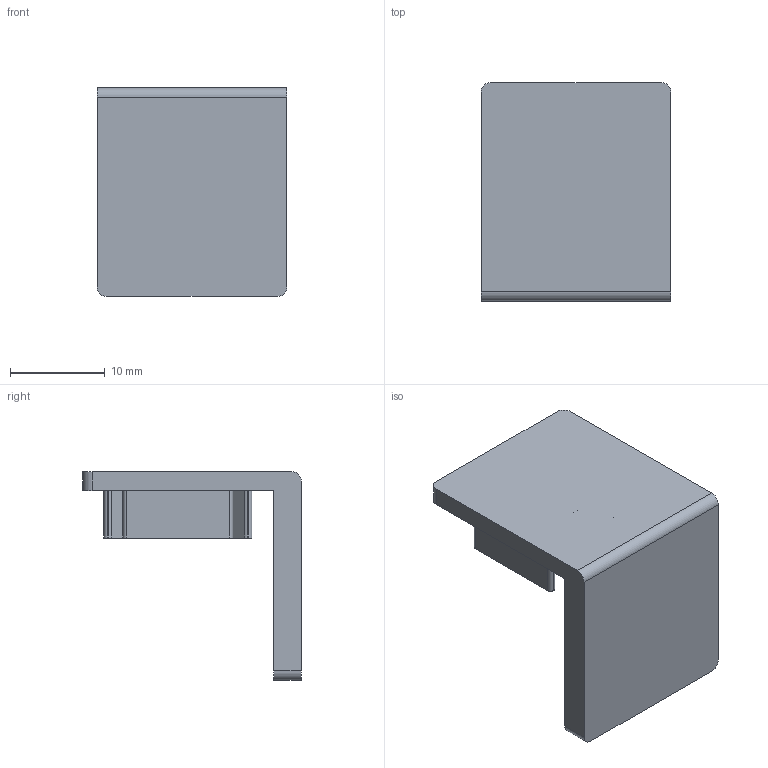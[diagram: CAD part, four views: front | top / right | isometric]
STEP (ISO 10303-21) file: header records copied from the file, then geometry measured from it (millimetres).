
FILE_DESCRIPTION(/* description */ ('','CAx-IF Rec.Pracs.---Representation and Presentation of Product Manufacturing Information (PMI)---4.0---2014-10-13'),/* implementation_level */ '2;1');
FILE_NAME(/* name */ 'tappo_03.stp',/* time_stamp */ '2026-02-28T20:14:04+01:00',/* author */ ('R5800u'),/* organization */ (''),/* preprocessor_version */ 'ST-DEVELOPER v20',/* originating_system */ 'Autodesk Inventor 2025',/* authorisation */ '');
FILE_SCHEMA (('AP242_MANAGED_MODEL_BASED_3D_ENGINEERING_MIM_LF { 1 0 10303 442 1 1 4 }'));
Length unit declared in the file: millimetre
Products named in the file (1): tappo_03
Bounding box: 20 x 23 x 22 mm (x, y, z)
Volume: 2796.6 mm3; surface area: 2640.3 mm2
Topology: 2 solids, 2 shells, 66 faces, 177 edges, 118 vertices
Faces by surface type: plane 37, cylinder 29
Entity records: 2343 total; most frequent: CARTESIAN_POINT 430, DIRECTION 395, ORIENTED_EDGE 354, EDGE_CURVE 177, AXIS2_PLACEMENT_3D 138, LINE 119, VECTOR 119, VERTEX_POINT 118
